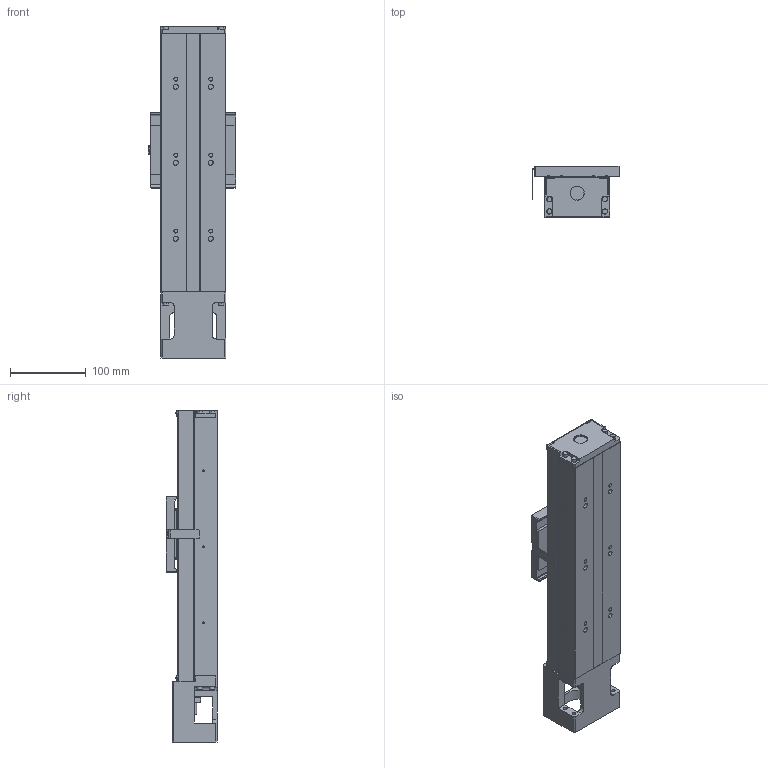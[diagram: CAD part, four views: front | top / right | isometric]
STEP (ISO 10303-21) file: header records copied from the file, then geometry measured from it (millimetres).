
FILE_DESCRIPTION (( 'STEP AP203' ), '1' );
FILE_NAME ('GKAC4686-190-12N-P20-CXXXX-網站用圖.STEP', '2023-04-13T02:51:42', ( '' ), ( '' ), 'SwSTEP 2.0', 'SolidWorks 2019', '' );
FILE_SCHEMA (( 'CONFIG_CONTROL_DESIGN' ));
Length unit declared in the file: millimetre
Products named in the file (3): Group2^GKAC4686-190-12N-P20-CXXXX-網站用圖_defeature_GMT; Group1^GKAC4686-190-12N-P20-CXXXX-網站用圖_defeature_GMT; GKAC4686-190-12N-P20-CXXXX-網站用圖
Assembly tree (2 placements, depth 2):
  GKAC4686-190-12N-P20-CXXXX-網站用圖
    Group1^GKAC4686-190-12N-P20-CXXXX-網站用圖_defeature_GMT
    Group2^GKAC4686-190-12N-P20-CXXXX-網站用圖_defeature_GMT
Bounding box: 115.2 x 68 x 437 mm (x, y, z)
Volume: 1228755.1 mm3; surface area: 354951 mm2
Topology: 22 solids, 26 shells, 2313 faces, 6037 edges, 3828 vertices
Faces by surface type: plane 1050, cylinder 690, cone 237, torus 165, bspline 126, sphere 45
Entity records: 78815 total; most frequent: CARTESIAN_POINT 21666, DIRECTION 12000, ORIENTED_EDGE 11990, EDGE_CURVE 5995, AXIS2_PLACEMENT_3D 4458, VERTEX_POINT 3825, VECTOR 3084, LINE 3084
